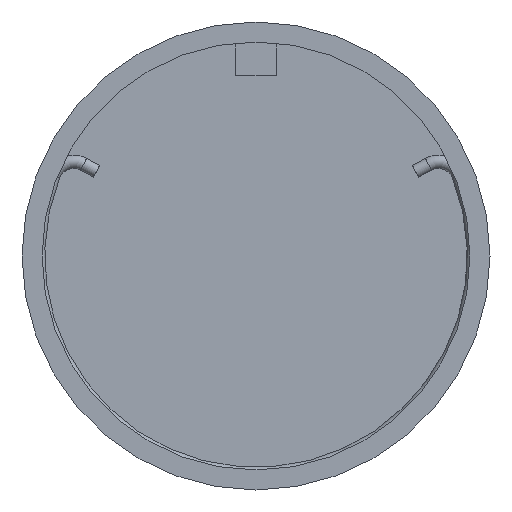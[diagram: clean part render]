
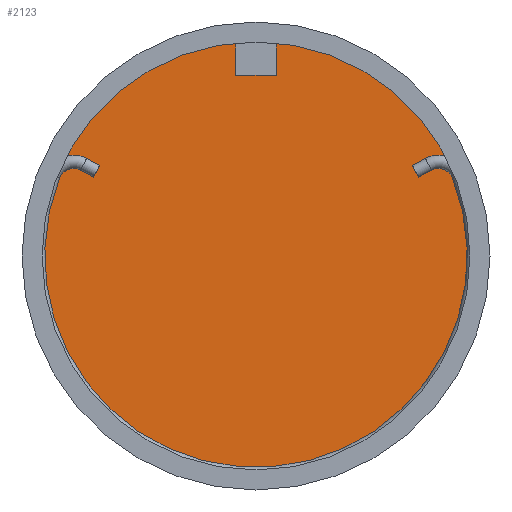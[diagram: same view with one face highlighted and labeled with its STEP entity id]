
A CAD part, front view. The second image highlights one B-rep face of the part: STEP entity #2123.
In plain terms, the highlighted planar face has unit normal (0, -1, 0).
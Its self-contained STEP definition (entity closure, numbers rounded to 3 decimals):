
#511=FACE_OUTER_BOUND('',#656,.T.);
#656=EDGE_LOOP('',(#1766));
#816=CIRCLE('',#2505,16.);
#1017=VERTEX_POINT('',#4240);
#1280=EDGE_CURVE('',#1017,#1017,#816,.T.);
#1766=ORIENTED_EDGE('',*,*,#1280,.F.);
#2022=PLANE('',#2507);
#2123=ADVANCED_FACE('',(#511),#2022,.F.);
#2505=AXIS2_PLACEMENT_3D('',#4242,#3118,#3119);
#2507=AXIS2_PLACEMENT_3D('',#4244,#3122,#3123);
#3118=DIRECTION('center_axis',(0.,1.,0.));
#3119=DIRECTION('ref_axis',(1.,0.,0.));
#3122=DIRECTION('center_axis',(0.,1.,0.));
#3123=DIRECTION('ref_axis',(1.,0.,0.));
#4240=CARTESIAN_POINT('',(-16.,0.,0.));
#4242=CARTESIAN_POINT('Origin',(0.,0.,0.));
#4244=CARTESIAN_POINT('Origin',(0.,0.,0.));
